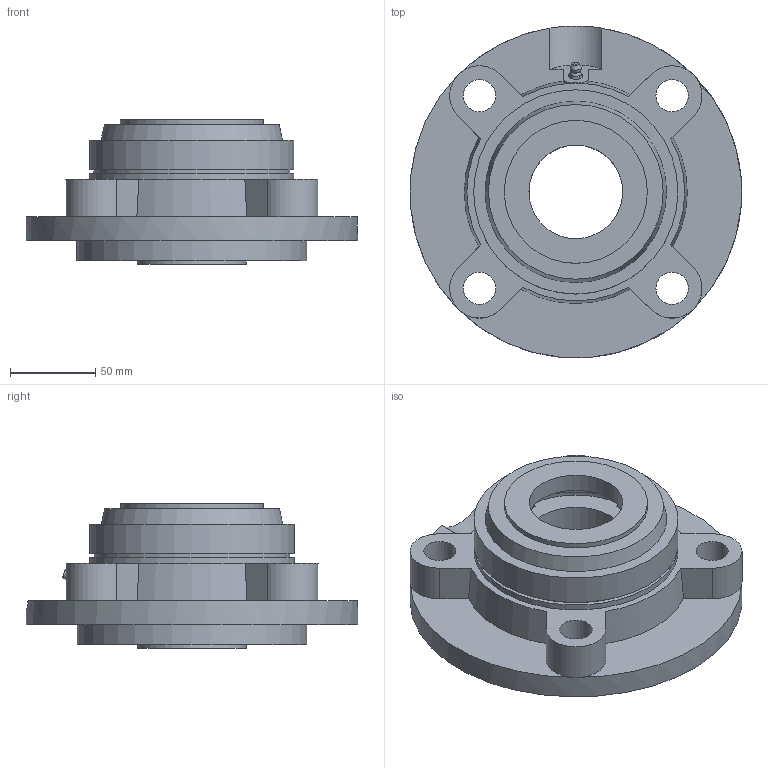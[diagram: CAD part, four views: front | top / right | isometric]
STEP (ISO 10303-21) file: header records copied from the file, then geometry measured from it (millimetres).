
FILE_DESCRIPTION((''),'2;1');
FILE_NAME('\\Ts-tgl068\j-cad-d-base\00.3DCADデータ作成フォルダ\02.フランジ形\UKFC200C(E)\UKFC212C+H.stp','2014-05-22T07:50:16',('btec_1106_2'),(''),'Autodesk Inventor 2012','Autodesk Inventor 2012','');
FILE_SCHEMA(('AUTOMOTIVE_DESIGN { 1 0 10303 214 1 1 1 1 }'));
Length unit declared in the file: millimetre
Products named in the file (5): UKFC200C+H; FC212C; UK212; GU1; 212CPA55
Assembly tree (4 placements, depth 2):
  UKFC200C+H
    FC212C
    UK212
    GU1
    212CPA55
Bounding box: 194.77 x 194.94 x 85 mm (x, y, z)
Volume: 742059.1 mm3; surface area: 190898.2 mm2
Topology: 4 solids, 4 shells, 230 faces, 564 edges, 361 vertices
Faces by surface type: plane 102, cylinder 64, cone 56, sphere 4, bspline 2, torus 2
Full cylindrical faces by diameter (mm): 5.359 x1, 6.35 x1, 19 x4, 55 x2, 60 x1, 77 x2, 84 x2, 113 x1, 115 x1, 118 x2, 120 x3, 135 x1, 195 x1
Entity records: 6680 total; most frequent: CARTESIAN_POINT 1436, DIRECTION 1083, ORIENTED_EDGE 1032, EDGE_CURVE 516, AXIS2_PLACEMENT_3D 447, VERTEX_POINT 345, EDGE_LOOP 301, FACE_OUTER_BOUND 230
